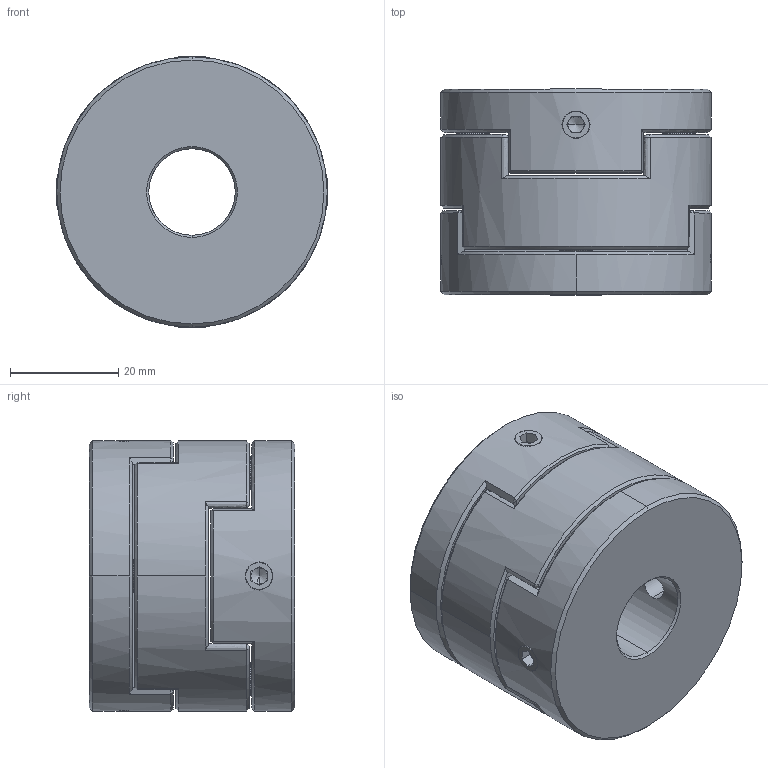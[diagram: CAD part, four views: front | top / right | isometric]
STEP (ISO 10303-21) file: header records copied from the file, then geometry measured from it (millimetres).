
FILE_DESCRIPTION (( 'STEP AP203' ), '1' );
FILE_NAME ('LZ-D-D50L38-16-24.STEP', '2021-10-30T05:48:53', ( '' ), ( '' ), 'SwSTEP 2.0', 'SolidWorks 2018', '' );
FILE_SCHEMA (( 'CONFIG_CONTROL_DESIGN' ));
Length unit declared in the file: millimetre
Products named in the file (1): LZ-D-D50L38-16-24
Bounding box: 50 x 38 x 50 mm (x, y, z)
Volume: 59021.6 mm3; surface area: 18257.6 mm2
Topology: 1 solids, 1 shells, 223 faces, 552 edges, 330 vertices
Faces by surface type: plane 89, bspline 54, cone 54, cylinder 26
Entity records: 7590 total; most frequent: CARTESIAN_POINT 2791, ORIENTED_EDGE 1088, DIRECTION 802, EDGE_CURVE 544, VERTEX_POINT 330, AXIS2_PLACEMENT_3D 290, EDGE_LOOP 248, FACE_OUTER_BOUND 223
